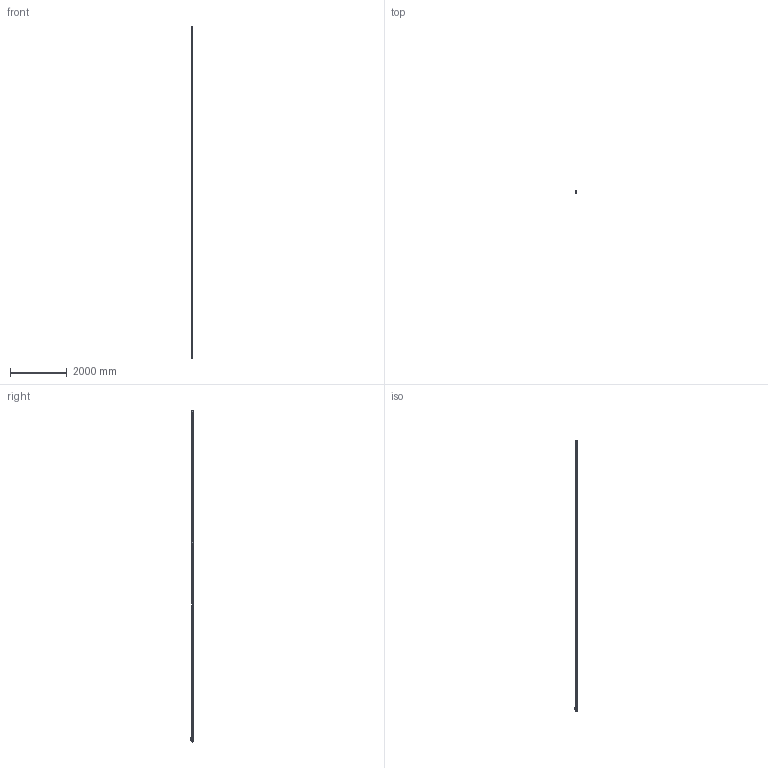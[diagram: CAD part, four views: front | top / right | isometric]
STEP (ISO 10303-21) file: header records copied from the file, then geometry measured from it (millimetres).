
FILE_DESCRIPTION(('Creo Elements/Direct Modeling STEP Export'),'2;1');
FILE_NAME('F-114.stp','2011-11-17T19:38:57',(''),(''),'Creo Elements/Direct Modeling STEP processor for AP214 (Solid Model)','Creo Elements/Direct Modeling 17.0C 05-Feb-2011 (C) Parametric Technology GmbH','');
FILE_SCHEMA(('AUTOMOTIVE_DESIGN { 1 0 10303 214 1 1 1 1 }'));
Length unit declared in the file: millimetre
Products named in the file (5): Modulos_intermedio_(FL-14).4; Modulo_der_(16E); Modulo_izq_(K).1; CABEZA; F-114
Assembly tree (9 placements, depth 2):
  F-114
    Modulos_intermedio_(FL-14).4  x6
    CABEZA
    Modulo_izq_(K).1
    Modulo_der_(16E)
Bounding box: 51.5 x 87.95 x 11735.6 mm (x, y, z)
Volume: 29899414.8 mm3; surface area: 3447211.5 mm2
Topology: 10 solids, 89 shells, 5386 faces, 15031 edges, 9615 vertices
Faces by surface type: cylinder 2393, plane 2045, cone 404, torus 267, bspline 197, extrusion 70, sphere 10
Entity records: 104706 total; most frequent: CARTESIAN_POINT 32916, ORIENTED_EDGE 15396, DIRECTION 13301, EDGE_CURVE 7692, VERTEX_POINT 4973, AXIS2_PLACEMENT_3D 4687, VECTOR 3927, LINE 3907
